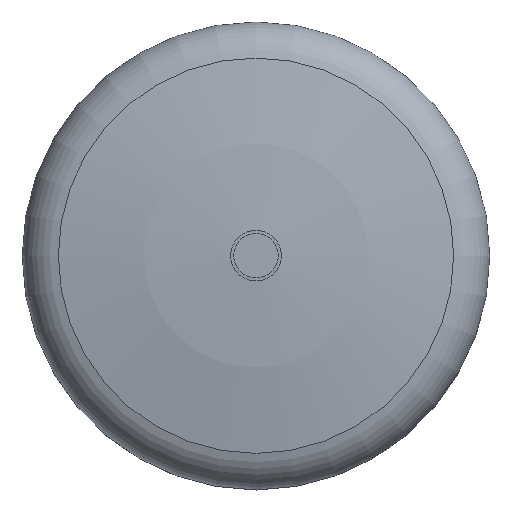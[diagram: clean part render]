
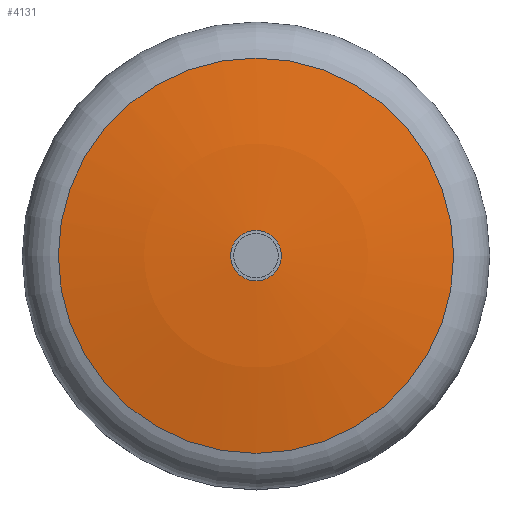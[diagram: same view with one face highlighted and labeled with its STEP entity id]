
A CAD part, top view. The second image highlights one B-rep face of the part: STEP entity #4131.
In plain terms, the highlighted spherical face has radius 704.528 mm.
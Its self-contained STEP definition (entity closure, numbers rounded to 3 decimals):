
#330=SPHERICAL_SURFACE('',#4462,704.528);
#639=CIRCLE('',#4463,17.);
#640=CIRCLE('',#4464,133.171);
#910=ORIENTED_EDGE('',*,*,#2246,.F.);
#911=ORIENTED_EDGE('',*,*,#2247,.T.);
#2246=EDGE_CURVE('',#2914,#2914,#639,.F.);
#2247=EDGE_CURVE('',#2915,#2915,#640,.T.);
#2914=VERTEX_POINT('',#6527);
#2915=VERTEX_POINT('',#6529);
#3484=EDGE_LOOP('',(#910));
#3485=EDGE_LOOP('',(#911));
#3798=FACE_BOUND('',#3484,.T.);
#3799=FACE_BOUND('',#3485,.T.);
#4131=ADVANCED_FACE('',(#3798,#3799),#330,.T.);
#4462=AXIS2_PLACEMENT_3D('',#6525,#4941,#4942);
#4463=AXIS2_PLACEMENT_3D('',#6526,#4943,#4944);
#4464=AXIS2_PLACEMENT_3D('',#6528,#4945,#4946);
#4941=DIRECTION('',(0.,0.,1.));
#4942=DIRECTION('',(1.,0.,0.));
#4943=DIRECTION('',(0.,0.,-1.));
#4944=DIRECTION('',(-1.,0.,0.));
#4945=DIRECTION('',(0.,0.,1.));
#4946=DIRECTION('',(1.,0.,0.));
#6525=CARTESIAN_POINT('',(0.,0.,-704.368));
#6526=CARTESIAN_POINT('',(0.,0.,-0.045));
#6527=CARTESIAN_POINT('',(-17.,0.,-0.045));
#6528=CARTESIAN_POINT('',(0.,0.,-12.541));
#6529=CARTESIAN_POINT('',(133.171,0.,-12.541));
